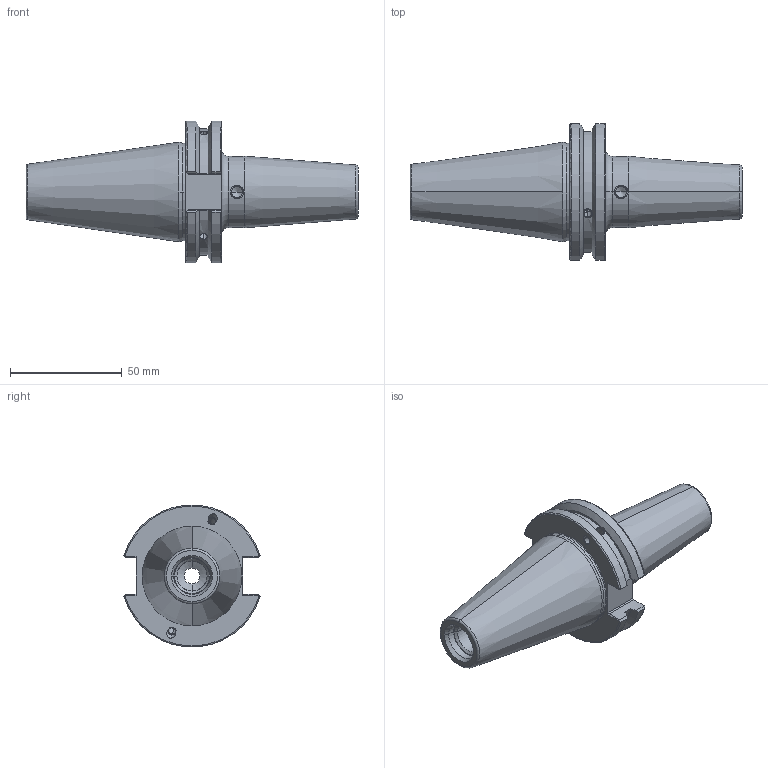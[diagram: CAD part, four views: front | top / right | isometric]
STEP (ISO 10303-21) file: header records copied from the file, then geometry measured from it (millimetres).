
FILE_DESCRIPTION((''),'2;1');
FILE_NAME('CAT40ADB-SFH9_525C-80','2020-09-02T08:27:06',('ssktool'),(''),'CREO PARAMETRIC BY PTC INC, 2018100','CREO PARAMETRIC BY PTC INC, 2018100','');
FILE_SCHEMA(('CONFIG_CONTROL_DESIGN'));
Length unit declared in the file: millimetre
Products named in the file (1): CAT40ADB-SFH9_525C-80
Bounding box: 148.25 x 60.84 x 63.27 mm (x, y, z)
Volume: 133942.5 mm3; surface area: 32171.1 mm2
Topology: 1 solids, 10 shells, 195 faces, 518 edges, 326 vertices
Faces by surface type: cylinder 84, plane 53, cone 36, torus 18, bspline 4
Entity records: 6751 total; most frequent: CARTESIAN_POINT 2039, DIRECTION 954, ORIENTED_EDGE 948, EDGE_CURVE 502, AXIS2_PLACEMENT_3D 380, VERTEX_POINT 326, EDGE_LOOP 228, FACE_OUTER_BOUND 195
